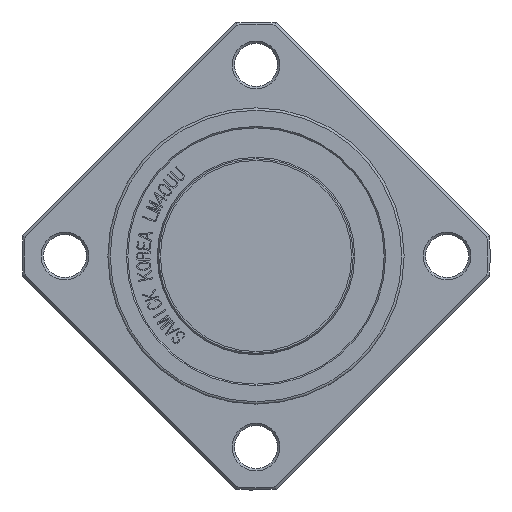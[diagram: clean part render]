
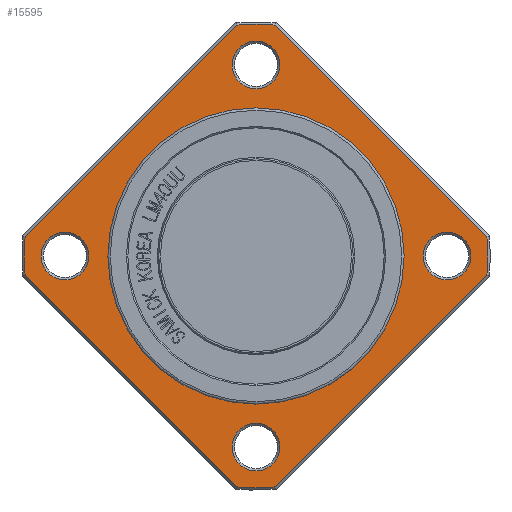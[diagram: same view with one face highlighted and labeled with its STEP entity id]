
A CAD part, front view. The second image highlights one B-rep face of the part: STEP entity #15595.
In plain terms, the highlighted planar face has unit normal (0, -1, 0).
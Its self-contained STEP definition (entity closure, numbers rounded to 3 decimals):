
#2166=FACE_BOUND('',#3357,.T.);
#2167=FACE_BOUND('',#3358,.T.);
#2168=FACE_BOUND('',#3359,.T.);
#2169=FACE_BOUND('',#3360,.T.);
#2170=FACE_BOUND('',#3361,.T.);
#2228=PLANE('',#16497);
#2485=FACE_OUTER_BOUND('',#3356,.T.);
#3356=EDGE_LOOP('',(#10764,#10765,#10766,#10767,#10768,#10769,#10770,#10771));
#3357=EDGE_LOOP('',(#10772));
#3358=EDGE_LOOP('',(#10773));
#3359=EDGE_LOOP('',(#10774,#10775));
#3360=EDGE_LOOP('',(#10776));
#3361=EDGE_LOOP('',(#10777));
#4286=LINE('',#18850,#5454);
#4287=LINE('',#18854,#5455);
#4288=LINE('',#18858,#5456);
#4289=LINE('',#18862,#5457);
#5454=VECTOR('',#16912,10.);
#5455=VECTOR('',#16915,10.);
#5456=VECTOR('',#16918,10.);
#5457=VECTOR('',#16921,10.);
#6629=CIRCLE('',#16495,5.);
#6631=CIRCLE('',#16498,48.5);
#6632=CIRCLE('',#16499,48.5);
#6633=CIRCLE('',#16500,48.5);
#6634=CIRCLE('',#16501,48.5);
#6635=CIRCLE('',#16502,5.);
#6636=CIRCLE('',#16503,5.);
#6637=CIRCLE('',#16504,31.);
#6638=CIRCLE('',#16505,31.);
#6639=CIRCLE('',#16506,5.);
#6723=VERTEX_POINT('',#18842);
#6725=VERTEX_POINT('',#18848);
#6726=VERTEX_POINT('',#18849);
#6727=VERTEX_POINT('',#18851);
#6728=VERTEX_POINT('',#18853);
#6729=VERTEX_POINT('',#18855);
#6730=VERTEX_POINT('',#18857);
#6731=VERTEX_POINT('',#18859);
#6732=VERTEX_POINT('',#18861);
#6733=VERTEX_POINT('',#18864);
#6734=VERTEX_POINT('',#18866);
#6735=VERTEX_POINT('',#18868);
#6736=VERTEX_POINT('',#18869);
#6737=VERTEX_POINT('',#18872);
#8337=EDGE_CURVE('',#6723,#6723,#6629,.T.);
#8340=EDGE_CURVE('',#6725,#6726,#4286,.T.);
#8341=EDGE_CURVE('',#6725,#6727,#6631,.T.);
#8342=EDGE_CURVE('',#6728,#6727,#4287,.T.);
#8343=EDGE_CURVE('',#6728,#6729,#6632,.T.);
#8344=EDGE_CURVE('',#6730,#6729,#4288,.T.);
#8345=EDGE_CURVE('',#6730,#6731,#6633,.T.);
#8346=EDGE_CURVE('',#6732,#6731,#4289,.T.);
#8347=EDGE_CURVE('',#6732,#6726,#6634,.T.);
#8348=EDGE_CURVE('',#6733,#6733,#6635,.T.);
#8349=EDGE_CURVE('',#6734,#6734,#6636,.T.);
#8350=EDGE_CURVE('',#6735,#6736,#6637,.T.);
#8351=EDGE_CURVE('',#6736,#6735,#6638,.T.);
#8352=EDGE_CURVE('',#6737,#6737,#6639,.T.);
#10764=ORIENTED_EDGE('',*,*,#8340,.F.);
#10765=ORIENTED_EDGE('',*,*,#8341,.T.);
#10766=ORIENTED_EDGE('',*,*,#8342,.F.);
#10767=ORIENTED_EDGE('',*,*,#8343,.T.);
#10768=ORIENTED_EDGE('',*,*,#8344,.F.);
#10769=ORIENTED_EDGE('',*,*,#8345,.T.);
#10770=ORIENTED_EDGE('',*,*,#8346,.F.);
#10771=ORIENTED_EDGE('',*,*,#8347,.T.);
#10772=ORIENTED_EDGE('',*,*,#8348,.F.);
#10773=ORIENTED_EDGE('',*,*,#8349,.F.);
#10774=ORIENTED_EDGE('',*,*,#8350,.F.);
#10775=ORIENTED_EDGE('',*,*,#8351,.F.);
#10776=ORIENTED_EDGE('',*,*,#8352,.F.);
#10777=ORIENTED_EDGE('',*,*,#8337,.F.);
#15595=ADVANCED_FACE('',(#2485,#2166,#2167,#2168,#2169,#2170),#2228,.T.);
#16495=AXIS2_PLACEMENT_3D('',#18843,#16905,#16906);
#16497=AXIS2_PLACEMENT_3D('',#18847,#16910,#16911);
#16498=AXIS2_PLACEMENT_3D('',#18852,#16913,#16914);
#16499=AXIS2_PLACEMENT_3D('',#18856,#16916,#16917);
#16500=AXIS2_PLACEMENT_3D('',#18860,#16919,#16920);
#16501=AXIS2_PLACEMENT_3D('',#18863,#16922,#16923);
#16502=AXIS2_PLACEMENT_3D('',#18865,#16924,#16925);
#16503=AXIS2_PLACEMENT_3D('',#18867,#16926,#16927);
#16504=AXIS2_PLACEMENT_3D('',#18870,#16928,#16929);
#16505=AXIS2_PLACEMENT_3D('',#18871,#16930,#16931);
#16506=AXIS2_PLACEMENT_3D('',#18873,#16932,#16933);
#16905=DIRECTION('center_axis',(0.,-1.,0.));
#16906=DIRECTION('ref_axis',(0.,0.,
1.));
#16910=DIRECTION('center_axis',(0.,-1.,0.));
#16911=DIRECTION('ref_axis',(0.,0.,-1.));
#16912=DIRECTION('',(-0.707,0.,0.707));
#16913=DIRECTION('center_axis',(0.,-1.,0.));
#16914=DIRECTION('ref_axis',(1.,0.,0.));
#16915=DIRECTION('',(-0.707,0.,-0.707));
#16916=DIRECTION('center_axis',(0.,-1.,0.));
#16917=DIRECTION('ref_axis',(1.,0.,0.));
#16918=DIRECTION('',(0.707,0.,-0.707));
#16919=DIRECTION('center_axis',(0.,-1.,0.));
#16920=DIRECTION('ref_axis',(1.,0.,0.));
#16921=DIRECTION('',(0.707,0.,0.707));
#16922=DIRECTION('center_axis',(0.,-1.,0.));
#16923=DIRECTION('ref_axis',(1.,0.,0.));
#16924=DIRECTION('center_axis',(0.,-1.,0.));
#16925=DIRECTION('ref_axis',(1.,0.,0.));
#16926=DIRECTION('center_axis',(0.,-1.,0.));
#16927=DIRECTION('ref_axis',(-1.,0.,0.));
#16928=DIRECTION('center_axis',(0.,-1.,0.));
#16929=DIRECTION('ref_axis',(1.,0.,0.));
#16930=DIRECTION('center_axis',(0.,-1.,0.));
#16931=DIRECTION('ref_axis',(1.,0.,0.));
#16932=DIRECTION('center_axis',(0.,-1.,0.));
#16933=DIRECTION('ref_axis',(0.,0.,-1.));
#18842=CARTESIAN_POINT('',(0.,14.,35.));
#18843=CARTESIAN_POINT('Origin',(0.,14.,40.));
#18847=CARTESIAN_POINT('Origin',(31.,14.,0.));
#18848=CARTESIAN_POINT('',(-3.99,14.,-48.336));
#18849=CARTESIAN_POINT('',(-48.336,14.,-3.99));
#18850=CARTESIAN_POINT('',(-31.671,14.,-20.655));
#18851=CARTESIAN_POINT('',(3.99,14.,-48.336));
#18852=CARTESIAN_POINT('Origin',(0.,14.,0.));
#18853=CARTESIAN_POINT('',(48.336,14.,-3.99));
#18854=CARTESIAN_POINT('',(20.655,14.,-31.671));
#18855=CARTESIAN_POINT('',(48.336,14.,3.99));
#18856=CARTESIAN_POINT('Origin',(0.,14.,0.));
#18857=CARTESIAN_POINT('',(3.99,14.,48.336));
#18858=CARTESIAN_POINT('',(47.171,14.,5.155));
#18859=CARTESIAN_POINT('',(-3.99,14.,48.336));
#18860=CARTESIAN_POINT('Origin',(0.,14.,0.));
#18861=CARTESIAN_POINT('',(-48.336,14.,3.99));
#18862=CARTESIAN_POINT('',(-5.155,14.,47.171));
#18863=CARTESIAN_POINT('Origin',(0.,14.,0.));
#18864=CARTESIAN_POINT('',(35.,14.,0.));
#18865=CARTESIAN_POINT('Origin',(40.,14.,0.));
#18866=CARTESIAN_POINT('',(-35.,14.,0.));
#18867=CARTESIAN_POINT('Origin',(-40.,14.,0.));
#18868=CARTESIAN_POINT('',(31.,14.,0.));
#18869=CARTESIAN_POINT('',(-31.,14.,0.));
#18870=CARTESIAN_POINT('Origin',(0.,14.,0.));
#18871=CARTESIAN_POINT('Origin',(0.,14.,0.));
#18872=CARTESIAN_POINT('',(0.,14.,-35.));
#18873=CARTESIAN_POINT('Origin',(0.,14.,-40.));
